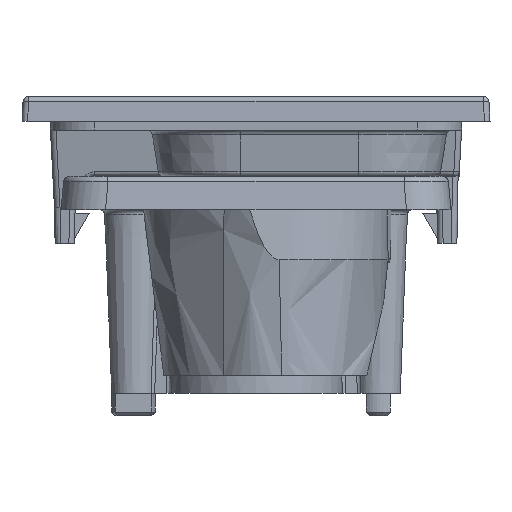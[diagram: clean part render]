
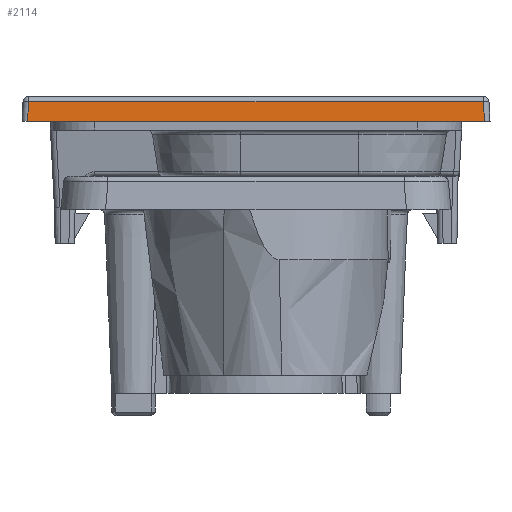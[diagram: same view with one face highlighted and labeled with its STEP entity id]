
A CAD part, left-side view. The second image highlights one B-rep face of the part: STEP entity #2114.
In plain terms, the highlighted planar face has unit normal (-0.999, 0, 0.052).
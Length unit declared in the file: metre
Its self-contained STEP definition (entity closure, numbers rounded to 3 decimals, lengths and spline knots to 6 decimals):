
#2114=ADVANCED_FACE('',(#4797),#4798,.T.);
#4797=FACE_OUTER_BOUND('',#10756,.T.);
#4798=PLANE('',#10757);
#10756=EDGE_LOOP('',(#24477,#24478,#24479,#24480,#24481,#24482));
#10757=AXIS2_PLACEMENT_3D('',#24483,#24484,#24485);
#24477=ORIENTED_EDGE('',*,*,#31363,.T.);
#24478=ORIENTED_EDGE('',*,*,#30958,.T.);
#24479=ORIENTED_EDGE('',*,*,#31446,.T.);
#24480=ORIENTED_EDGE('',*,*,#31453,.F.);
#24481=ORIENTED_EDGE('',*,*,#31454,.T.);
#24482=ORIENTED_EDGE('',*,*,#31137,.T.);
#24483=CARTESIAN_POINT('',(-0.00975,0.0105,0.012209));
#24484=DIRECTION('',(-0.999,0.,0.052));
#24485=DIRECTION('',(-0.052,0.,-0.999));
#30958=EDGE_CURVE('',#35421,#35427,#35429,.F.);
#31137=EDGE_CURVE('',#35706,#35701,#35709,.F.);
#31363=EDGE_CURVE('',#35701,#35421,#36026,.F.);
#31446=EDGE_CURVE('',#35427,#36029,#36121,.T.);
#31453=EDGE_CURVE('',#35905,#36029,#36128,.F.);
#31454=EDGE_CURVE('',#35905,#35706,#36129,.T.);
#35421=VERTEX_POINT('',#41701);
#35427=VERTEX_POINT('',#41708);
#35429=LINE('',#41710,#41711);
#35701=VERTEX_POINT('',#42176);
#35706=VERTEX_POINT('',#42181);
#35709=LINE('',#42185,#42186);
#35905=VERTEX_POINT('',#42510);
#36026=LINE('',#42745,#42746);
#36029=VERTEX_POINT('',#42749);
#36121=LINE('',#42891,#42892);
#36128=LINE('',#42903,#42904);
#36129=LINE('',#42905,#42906);
#41701=CARTESIAN_POINT('',(-0.009704,0.010204,0.013086));
#41708=CARTESIAN_POINT('',(-0.00975,0.01025,0.012209));
#41710=CARTESIAN_POINT('',(-0.009751,0.010251,0.012196));
#41711=VECTOR('',#50987,1.0);
#42176=CARTESIAN_POINT('',(-0.009704,-0.010204,0.013086));
#42181=CARTESIAN_POINT('',(-0.00975,-0.01025,0.012209));
#42185=CARTESIAN_POINT('',(-0.009705,-0.010205,0.013073));
#42186=VECTOR('',#51190,1.0);
#42510=CARTESIAN_POINT('',(-0.00975,-0.007248,0.012209));
#42745=CARTESIAN_POINT('',(-0.009704,0.0105,0.013086));
#42746=VECTOR('',#51425,1.0);
#42749=CARTESIAN_POINT('',(-0.00975,0.007248,0.012209));
#42891=CARTESIAN_POINT('',(-0.00975,0.,0.012209));
#42892=VECTOR('',#51492,1.0);
#42903=CARTESIAN_POINT('',(-0.00975,-0.009245,0.012209));
#42904=VECTOR('',#51497,1.0);
#42905=CARTESIAN_POINT('',(-0.00975,0.,0.012209));
#42906=VECTOR('',#51498,1.0);
#50987=DIRECTION('',(0.052,-0.052,0.997));
#51190=DIRECTION('',(-0.052,-0.052,-0.997));
#51425=DIRECTION('',(0.,-1.0,0.0));
#51492=DIRECTION('',(0.,-1.0,0.0));
#51497=DIRECTION('',(0.,-1.0,0.0));
#51498=DIRECTION('',(0.,-1.0,0.0));
